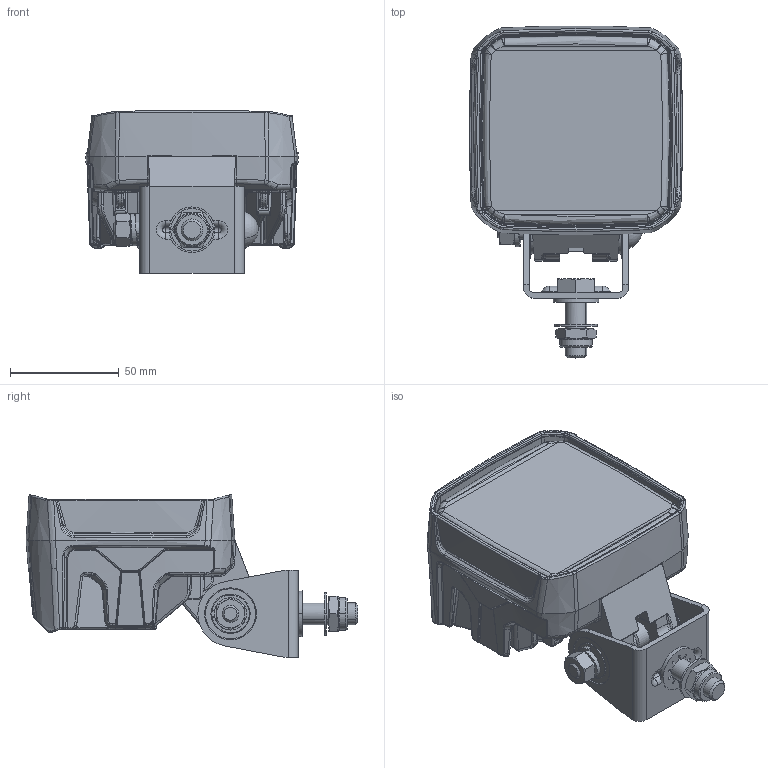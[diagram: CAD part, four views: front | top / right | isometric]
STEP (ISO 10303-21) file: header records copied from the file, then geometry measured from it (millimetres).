
FILE_DESCRIPTION(('CATIA V5 STEP Exchange','CAx-IF Rec.Pracs.--- Model Styling and Organization---1.5--- 2016-08-15','CAx-IF Rec.Pracs.---Supplemental Geometry---1.0---2011-11-01','CAx-IF Rec.Pracs.---Representation and Presentation of Product Manufacturing Information (PMI)---4.0---2014-10-13','CAx-IF Rec.Pracs.--- Composite Materials ---3.4---2017-06-13','CAx-IF Rec.Pracs.---Tessellated 3D Geometry---1.0---2015-12-17'),'2;1');
FILE_NAME('Z:\HFA-D-D2MD\HRO\3D Surface CS\RokBeam\996384-00.stp','2026-08-10T06:44:50+00:00',('none'),('none'),'CATIA Version 5-6 Release 2024 SP3 HF39','CATIA V5 STEP AP242 v3','none');
FILE_SCHEMA(('AP242_MANAGED_MODEL_BASED_3D_ENGINEERING_MIM_LF {1 0 10303 442 3 1 4}'));
Products named in the file (1): 10003913207_D10_001
Bounding box: 97.82 x 152.39 x 74.72 mm (x, y, z)
Volume: 373354 mm3; surface area: 95813.6 mm2
Topology: 3 solids, 20 shells, 4049 faces, 10747 edges, 6356 vertices
Faces by surface type: bspline 1583, plane 1328, cylinder 665, torus 246, cone 193, sphere 34
Entity records: 217028 total; most frequent: CARTESIAN_POINT 136150, ORIENTED_EDGE 21246, EDGE_CURVE 10623, DIRECTION 9367, VERTEX_POINT 6356, B_SPLINE_CURVE_WITH_KNOTS 4721, EDGE_LOOP 4131, ADVANCED_FACE 4049
